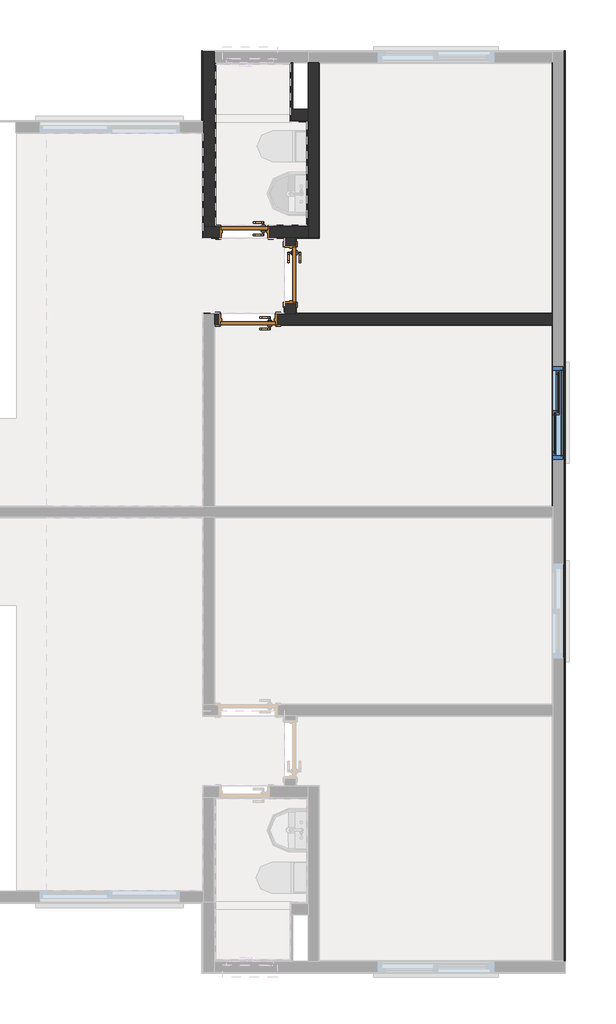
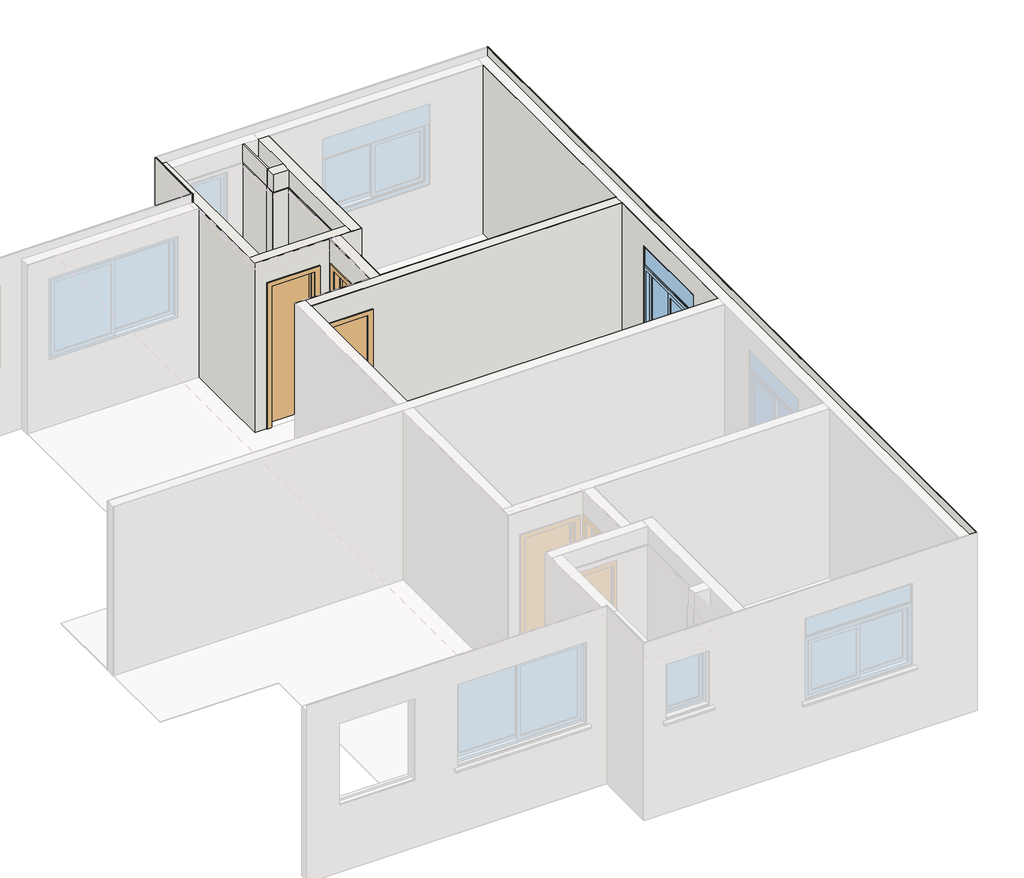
# One storey, part 9 of 11: 27 walls, 3 doors, 1 window.
"""IFC4 building model written with IfcOpenShell, lengths in millimetres."""

from ifc_helpers import new_model, si_unit, frame, origin, origin_with_axes, place, context, project, spatial, polyline, outline, extrude, faceted_brep, transform, mapped, element, save
from components import porta_de_madeira_interna_60_x_210_porta_de_madeira_interna_53f76a03, porta_de_madeira_interna_70_x_210_porta_de_madeira_interna_d0067c94, window_120x120_fed861a7

model = new_model("IFC4")

# Units and contexts
model_context = context("Model", 3, world=origin())
ifc_project = project(units=[si_unit("LENGTHUNIT", "METRE", prefix="MILLI")], contexts=[model_context])

# Site, building, storey
site = spatial("IfcSite", under=ifc_project)
building = spatial("IfcBuilding", under=site)
storey = spatial("IfcBuildingStorey", under=building, Name="Térreo", Elevation=0.0)

# Doors
placement = place(None, origin())
porta_de_madeira_interna_60_x_210_porta_de_madeira_interna_shape = porta_de_madeira_interna_60_x_210_porta_de_madeira_interna_53f76a03(model_context)
element("IfcDoor", 1, ObjectType="Porta de Madeira Interna 60 x 210 : Porta de Madeira Interna 60 x 210", at=placement, inside=storey, context=model_context, shape_type="MappedRepresentation", body=[
    mapped(porta_de_madeira_interna_60_x_210_porta_de_madeira_interna_shape, transform((16681.9956991, 10003.1988664, 0.0), x_axis=(-1.0, 0.0, 0.0), y_axis=(0.0, -1.0, 0.0), z_axis=(0.0, 0.0, 1.0))),
])
porta_de_madeira_interna_70_x_210_porta_de_madeira_interna_shape = porta_de_madeira_interna_70_x_210_porta_de_madeira_interna_d0067c94(model_context)
element("IfcDoor", 2, ObjectType="Porta de Madeira Interna 70 x 210 : Porta de Madeira Interna 70 x 210", at=placement, inside=storey, context=model_context, shape_type="MappedRepresentation", body=[
    mapped(porta_de_madeira_interna_70_x_210_porta_de_madeira_interna_shape, transform((17273.1716432, 9457.0248023, 0.0), x_axis=(0.0, -1.0, 0.0), y_axis=(1.0, 0.0, 0.0), z_axis=(0.0, 0.0, 1.0))),
])
element("IfcDoor", 3, ObjectType="Porta de Madeira Interna 70 x 210 : Porta de Madeira Interna 70 x 210", at=placement, inside=storey, context=model_context, shape_type="MappedRepresentation", body=[
    mapped(porta_de_madeira_interna_70_x_210_porta_de_madeira_interna_shape, transform((16726.9947994, 8876.8494803, 0.0), x_axis=(-1.0, 0.0, 0.0), y_axis=(0.0, -1.0, 0.0), z_axis=(0.0, 0.0, 1.0))),
])

# Walls
element("IfcWall", 4, ObjectType="Mureta box", at=placement, inside=storey, context=model_context, shape_type="SweptSolid", body=[
    extrude(outline(polyline([(16310.0007274, 11505.0235306), (17290.0007274, 11505.0235306), (17290.0007274, 11495.0235306), (16310.0007274, 11495.0235306), (16310.0007274, 11505.0235306)])), origin_with_axes(), (0.0, 0.0, 1.0), 90.0),
    extrude(outline(polyline([(17290.0007274, 11425.0235306), (16310.0007274, 11425.0235306), (16310.0007274, 11435.0235306), (17290.0007274, 11435.0235306), (17290.0007274, 11425.0235306)])), origin_with_axes(), (0.0, 0.0, 1.0), 90.0),
    extrude(outline(polyline([(17290.0007274, 11495.0235306), (17290.0007274, 11435.0235306), (16310.0007274, 11435.0235306), (16310.0007274, 11495.0235306), (17290.0007274, 11495.0235306)])), origin_with_axes(), (0.0, 0.0, 1.0), 90.0),
    extrude(outline(polyline([(16310.0007274, 11505.0235306), (17290.0007274, 11505.0235306), (17290.0007274, 11495.0235306), (16310.0007274, 11495.0235306), (16310.0007274, 11505.0235306)])), origin_with_axes(), (0.0, 0.0, 1.0), 90.0),
    extrude(outline(polyline([(17290.0007274, 11425.0235306), (16310.0007274, 11425.0235306), (16310.0007274, 11435.0235306), (17290.0007274, 11435.0235306), (17290.0007274, 11425.0235306)])), origin_with_axes(), (0.0, 0.0, 1.0), 90.0),
    extrude(outline(polyline([(17290.0007274, 11495.0235306), (17290.0007274, 11435.0235306), (16310.0007274, 11435.0235306), (16310.0007274, 11495.0235306), (17290.0007274, 11495.0235306)])), origin_with_axes(), (0.0, 0.0, 1.0), 90.0),
])
element("IfcWall", 5, ObjectType="Alvenaria Estrutural", at=placement, inside=storey, context=model_context, shape_type="Brep", body=[
    faceted_brep([(17339.9966432, 9924.0238664, 2510.0), (17339.9966432, 9930.0238664, 2510.0), (17199.9966432, 9930.0238664, 2510.0), (17199.9966432, 9924.0238664, 2510.0), (17199.9966432, 8956.0244803, 2510.0), (17199.9966432, 8950.0244803, 2510.0), (17339.9966432, 8950.0244803, 2510.0), (17339.9966432, 9082.0248023, 2125.0), (17339.9966432, 9082.0248023, 0.0), (17199.9966432, 9082.0248023, 0.0), (17199.9966432, 9082.0248023, 2125.0), (17339.9966432, 9832.0248023, 2125.0), (17199.9966432, 9832.0248023, 2125.0), (17339.9966432, 9832.0248023, 0.0), (17199.9966432, 9832.0248023, 0.0), (17339.9966432, 8950.0244803, 0.0), (17339.9966432, 9924.0238664, 0.0), (17339.9966432, 9930.0238664, 0.0), (17199.9966432, 9930.0238664, 0.0), (17199.9966432, 9924.0238664, 0.0), (17199.9966432, 8956.0244803, 0.0), (17199.9966432, 8950.0244803, 0.0)], [[[0, 1, 2, 3, 4, 5, 6]], [[7, 8, 9, 10]], [[11, 7, 10, 12]], [[13, 11, 12, 14]], [[1, 0, 6, 15, 8, 7, 11, 13, 16, 17]], [[5, 4, 3, 2, 18, 19, 14, 12, 10, 9, 20, 21]], [[8, 15, 21, 20, 9]], [[15, 6, 5, 21]], [[1, 17, 18, 2]], [[16, 13, 14, 19, 18, 17]]]),
    faceted_brep([(17339.9966432, 9930.0238664, 2510.0), (17339.9966432, 9924.0238664, 2510.0), (17339.9966432, 8950.0244803, 2510.0), (17339.9966432, 8950.0244803, 0.0), (17339.9966432, 9082.0248023, 0.0), (17339.9966432, 9082.0248023, 2125.0), (17339.9966432, 9832.0248023, 2125.0), (17339.9966432, 9832.0248023, 0.0), (17339.9966432, 9924.0238664, 0.0), (17339.9966432, 9930.0238664, 0.0), (17199.9966432, 8950.0244803, 2510.0), (17199.9966432, 8956.0244803, 2510.0), (17199.9966432, 9924.0238664, 2510.0), (17199.9966432, 9930.0238664, 2510.0), (17199.9966432, 9930.0238664, 0.0), (17199.9966432, 9924.0238664, 0.0), (17199.9966432, 9832.0248023, 0.0), (17199.9966432, 9832.0248023, 2125.0), (17199.9966432, 9082.0248023, 2125.0), (17199.9966432, 9082.0248023, 0.0), (17199.9966432, 8956.0244803, 0.0), (17199.9966432, 8950.0244803, 0.0)], [[[0, 1, 2, 3, 4, 5, 6, 7, 8, 9]], [[10, 11, 12, 13, 14, 15, 16, 17, 18, 19, 20, 21]], [[4, 3, 21, 20, 19]], [[1, 0, 13, 12, 11, 10, 2]], [[5, 4, 19, 18]], [[6, 5, 18, 17]], [[7, 6, 17, 16]], [[3, 2, 10, 21]], [[0, 9, 14, 13]], [[8, 7, 16, 15, 14, 9]]]),
])
element("IfcWall", 6, ObjectType="Alvenaria Estrutural", at=placement, inside=storey, context=model_context, shape_type="Brep", body=[
    faceted_brep([(17639.9970013, 12180.0252435, 0.0), (17639.9970013, 12180.0252435, 2510.0), (17639.9970013, 12174.0253822, 2510.0), (17639.9970013, 9930.025593, 2510.0), (17639.9970013, 9930.025593, 0.0), (17639.9970013, 12174.0253822, 0.0), (17499.9970013, 11580.0235306, 0.0), (17499.9970013, 12180.0252435, 0.0), (17499.9970013, 9930.025593, 0.0), (17499.9970013, 10070.0238664, 0.0), (17499.9970013, 10090.0238664, 0.0), (17499.9970013, 11420.0235306, 0.0), (17499.9970013, 11440.0235306, 0.0), (17499.9970013, 9930.025593, 2510.0), (17499.9970013, 10070.0238664, 2510.0), (17499.9970013, 12180.0252435, 2510.0), (17499.9970013, 11580.0235306, 2510.0), (17499.9970013, 11440.0235306, 2510.0)], [[[0, 1, 2, 3, 4, 5]], [[6, 7, 0, 5, 4, 8, 9, 10, 11, 12]], [[13, 8, 4, 3]], [[14, 13, 3, 2, 1, 15, 16, 17]], [[7, 6, 12, 11, 10, 9, 8, 13, 14, 17, 16, 15]], [[7, 15, 1, 0]]]),
    faceted_brep([(17499.9970013, 12180.0252435, 0.0), (17499.9970013, 11580.0235306, 0.0), (17499.9970013, 11440.0235306, 0.0), (17499.9970013, 11420.0235306, 0.0), (17499.9970013, 10090.0238664, 0.0), (17499.9970013, 10070.0238664, 0.0), (17499.9970013, 9930.025593, 0.0), (17499.9970013, 9930.025593, 2510.0), (17499.9970013, 10070.0238664, 2510.0), (17499.9970013, 11440.0235306, 2510.0), (17499.9970013, 11580.0235306, 2510.0), (17499.9970013, 12180.0252435, 2510.0), (17639.9970013, 12180.0252435, 0.0), (17639.9970013, 12180.0252435, 2510.0), (17639.9970013, 12174.0253822, 2510.0), (17639.9970013, 9930.025593, 2510.0), (17639.9970013, 9930.025593, 0.0), (17639.9970013, 12174.0253822, 0.0)], [[[0, 1, 2, 3, 4, 5, 6, 7, 8, 9, 10, 11]], [[12, 13, 14, 15, 16, 17]], [[1, 0, 12, 17, 16, 6, 5, 4, 3, 2]], [[7, 6, 16, 15]], [[8, 7, 15, 14, 13, 11, 10, 9]], [[0, 11, 13, 12]]]),
])
element("IfcWall", 7, ObjectType="Alvenaria Estrutural", at=placement, inside=storey, context=model_context, shape_type="Brep", body=[
    faceted_brep([(17499.9970013, 11440.0235306, 0.0), (17499.9970013, 11440.0235306, 2510.0), (17280.0007274, 11440.0235306, 2510.0), (17280.0007274, 11440.0235306, 0.0), (17303.0007274, 11580.0235306, 0.0), (17499.9970013, 11580.0235306, 0.0), (17280.0007274, 11580.0235306, 0.0), (17303.0007274, 11580.0235306, 2510.0), (17280.0007274, 11580.0235306, 2510.0), (17499.9970013, 11580.0235306, 2510.0)], [[[0, 1, 2, 3]], [[4, 5, 0, 3, 6]], [[7, 8, 2, 1, 9]], [[5, 4, 6, 8, 7, 9]], [[8, 6, 3, 2]], [[5, 9, 1, 0]]]),
    faceted_brep([(17499.9970013, 11580.0235306, 0.0), (17303.0007274, 11580.0235306, 0.0), (17280.0007274, 11580.0235306, 0.0), (17280.0007274, 11580.0235306, 2510.0), (17303.0007274, 11580.0235306, 2510.0), (17499.9970013, 11580.0235306, 2510.0), (17499.9970013, 11440.0235306, 0.0), (17499.9970013, 11440.0235306, 2510.0), (17280.0007274, 11440.0235306, 2510.0), (17280.0007274, 11440.0235306, 0.0)], [[[0, 1, 2, 3, 4, 5]], [[6, 7, 8, 9]], [[1, 0, 6, 9, 2]], [[4, 3, 8, 7, 5]], [[3, 2, 9, 8]], [[0, 5, 7, 6]]]),
])
element("IfcWall", 8, ObjectType="Alvenaria Estrutural", at=placement, inside=storey, context=model_context, shape_type="Brep", body=[
    faceted_brep([(17006.9956991, 10070.0238664, 0.0), (17499.9970013, 10070.0238664, 0.0), (17499.9970013, 9930.0238664, 0.0), (17339.9966432, 9930.0238664, 0.0), (17199.9966432, 9930.0238664, 0.0), (17193.9966432, 9930.0238664, 0.0), (17006.9956991, 9930.0238664, 0.0), (16289.9960602, 10070.0238664, 2510.0), (16149.9960602, 10070.0238664, 2510.0), (16149.9960602, 9930.0238664, 2510.0), (17193.9966432, 9930.0238664, 2510.0), (17199.9966432, 9930.0238664, 2510.0), (17339.9966432, 9930.0238664, 2510.0), (17499.9970013, 9930.0238664, 2510.0), (17499.9970013, 10070.0238664, 2510.0), (16356.9956991, 10070.0238664, 0.0), (16356.9956991, 10070.0238664, 2125.0), (16356.9956991, 9930.0238664, 2125.0), (16356.9956991, 9930.0238664, 0.0), (17006.9956991, 10070.0238664, 2125.0), (17006.9956991, 9930.0238664, 2125.0), (16289.9960602, 10070.0238664, 0.0), (16149.9960602, 9930.0238664, 0.0), (16149.9960602, 10070.0238664, 0.0), (17499.9970013, 10070.0238664, 2250.0)], [[[0, 1, 2, 3, 4, 5, 6]], [[7, 8, 9, 10, 11, 12, 13, 14]], [[15, 16, 17, 18]], [[16, 19, 20, 17]], [[19, 0, 6, 20]], [[21, 15, 18, 22, 23]], [[8, 7, 14, 24, 1, 0, 19, 16, 15, 21, 23]], [[13, 12, 11, 10, 9, 22, 18, 17, 20, 6, 5, 4, 3, 2]], [[8, 23, 22, 9]], [[24, 14, 13, 2, 1]]]),
    faceted_brep([(16149.9960602, 10070.0238664, 2510.0), (16289.9960602, 10070.0238664, 2510.0), (17499.9970013, 10070.0238664, 2510.0), (17499.9970013, 10070.0238664, 2250.0), (17499.9970013, 10070.0238664, 0.0), (17006.9956991, 10070.0238664, 0.0), (17006.9956991, 10070.0238664, 2125.0), (16356.9956991, 10070.0238664, 2125.0), (16356.9956991, 10070.0238664, 0.0), (16289.9960602, 10070.0238664, 0.0), (16149.9960602, 10070.0238664, 0.0), (17499.9970013, 9930.0238664, 2510.0), (17339.9966432, 9930.0238664, 2510.0), (17199.9966432, 9930.0238664, 2510.0), (17193.9966432, 9930.0238664, 2510.0), (16149.9960602, 9930.0238664, 2510.0), (16149.9960602, 9930.0238664, 0.0), (16356.9956991, 9930.0238664, 0.0), (16356.9956991, 9930.0238664, 2125.0), (17006.9956991, 9930.0238664, 2125.0), (17006.9956991, 9930.0238664, 0.0), (17193.9966432, 9930.0238664, 0.0), (17199.9966432, 9930.0238664, 0.0), (17339.9966432, 9930.0238664, 0.0), (17499.9970013, 9930.0238664, 0.0)], [[[0, 1, 2, 3, 4, 5, 6, 7, 8, 9, 10]], [[11, 12, 13, 14, 15, 16, 17, 18, 19, 20, 21, 22, 23, 24]], [[5, 4, 24, 23, 22, 21, 20]], [[1, 0, 15, 14, 13, 12, 11, 2]], [[8, 7, 18, 17]], [[7, 6, 19, 18]], [[6, 5, 20, 19]], [[0, 10, 16, 15]], [[3, 2, 11, 24, 4]], [[9, 8, 17, 16, 10]]]),
])
element("IfcWall", 9, ObjectType="Alvenaria Estrutural", at=placement, inside=storey, context=model_context, shape_type="Brep", body=[
    faceted_brep([(16149.9960602, 11436.0223004, 0.0), (16149.9960602, 12320.025593, 0.0), (16289.9960602, 12320.025593, 0.0), (16289.9960602, 12180.025593, 0.0), (16289.9960602, 10090.0238664, 0.0), (16289.9960602, 10070.0238664, 0.0), (16149.9960602, 10070.0238664, 0.0), (16149.9960602, 11274.0223004, 0.0), (16149.9960602, 11280.0223004, 0.0), (16149.9960602, 11420.0223004, 0.0), (16149.9960602, 11274.0223004, 2510.0), (16149.9960602, 10070.0238664, 2510.0), (16289.9960602, 10070.0238664, 2510.0), (16289.9960602, 12180.025593, 2510.0), (16289.9960602, 12320.025593, 2510.0), (16149.9960602, 12320.025593, 2510.0), (16149.9960602, 11420.0223004, 2510.0), (16149.9960602, 11280.0223004, 2510.0), (16289.9960602, 10070.0238664, 2250.0)], [[[0, 1, 2, 3, 4, 5, 6, 7, 8, 9]], [[10, 11, 12, 13, 14, 15, 16, 17]], [[1, 0, 9, 8, 7, 6, 11, 10, 17, 16, 15]], [[2, 14, 13, 12, 18, 5, 4, 3]], [[1, 15, 14, 2]], [[11, 6, 5, 18, 12]]]),
    faceted_brep([(16149.9960602, 12320.025593, 0.0), (16149.9960602, 11436.0223004, 0.0), (16149.9960602, 11420.0223004, 0.0), (16149.9960602, 11280.0223004, 0.0), (16149.9960602, 11274.0223004, 0.0), (16149.9960602, 10070.0238664, 0.0), (16149.9960602, 10070.0238664, 2510.0), (16149.9960602, 11274.0223004, 2510.0), (16149.9960602, 11280.0223004, 2510.0), (16149.9960602, 11420.0223004, 2510.0), (16149.9960602, 12320.025593, 2510.0), (16289.9960602, 12320.025593, 0.0), (16289.9960602, 12320.025593, 2510.0), (16289.9960602, 12180.025593, 2510.0), (16289.9960602, 10070.0238664, 2510.0), (16289.9960602, 10070.0238664, 2250.0), (16289.9960602, 10070.0238664, 0.0), (16289.9960602, 10090.0238664, 0.0), (16289.9960602, 12180.025593, 0.0)], [[[0, 1, 2, 3, 4, 5, 6, 7, 8, 9, 10]], [[11, 12, 13, 14, 15, 16, 17, 18]], [[1, 0, 11, 18, 17, 16, 5, 4, 3, 2]], [[7, 6, 14, 13, 12, 10, 9, 8]], [[0, 10, 12, 11]], [[6, 5, 16, 15, 14]]]),
])
element("IfcWall", 10, ObjectType="Alvenaria Estrutural", at=placement, inside=storey, context=model_context, shape_type="Brep", body=[
    faceted_brep([(20649.9955249, 8810.0244803, 2510.0), (20643.9955249, 8810.0244803, 2510.0), (16295.9950207, 8810.0244803, 2510.0), (16289.9950207, 8810.0244803, 2510.0), (16289.9950207, 8810.0244803, 0.0), (16295.9950207, 8810.0244803, 0.0), (16351.9947994, 8810.0244803, 0.0), (16351.9947994, 8810.0244803, 2125.0), (17101.9947994, 8810.0244803, 2125.0), (17101.9947994, 8810.0244803, 0.0), (20643.9955249, 8810.0244803, 0.0), (20649.9955249, 8810.0244803, 0.0), (16289.9950207, 8950.0244803, 2510.0), (17193.9966432, 8950.0244803, 2510.0), (17199.9966432, 8950.0244803, 2510.0), (17339.9966432, 8950.0244803, 2510.0), (17345.9966432, 8950.0244803, 2510.0), (20643.9955249, 8950.0244803, 2510.0), (20649.9955249, 8950.0244803, 2510.0), (20649.9955249, 8950.0244803, 0.0), (20643.9955249, 8950.0244803, 0.0), (17345.9966432, 8950.0244803, 0.0), (17339.9966432, 8950.0244803, 0.0), (17199.9966432, 8950.0244803, 0.0), (17193.9966432, 8950.0244803, 0.0), (17101.9947994, 8950.0244803, 0.0), (17101.9947994, 8950.0244803, 2125.0), (16351.9947994, 8950.0244803, 2125.0), (16351.9947994, 8950.0244803, 0.0), (16289.9950207, 8950.0244803, 0.0)], [[[0, 1, 2, 3, 4, 5, 6, 7, 8, 9, 10, 11]], [[12, 13, 14, 15, 16, 17, 18, 19, 20, 21, 22, 23, 24, 25, 26, 27, 28, 29]], [[5, 4, 29, 28, 6]], [[1, 0, 18, 17, 16, 15, 14, 13, 12, 3, 2]], [[7, 6, 28, 27]], [[8, 7, 27, 26]], [[9, 8, 26, 25]], [[4, 3, 12, 29]], [[0, 11, 19, 18]], [[10, 9, 25, 24, 23, 22, 21, 20, 19, 11]]]),
])
element("IfcWall", 11, ObjectType="Azulejo", at=placement, inside=storey, context=model_context, shape_type="SolidModel", body=[
    faceted_brep([(17006.9956991, 10080.0238664, 0.0), (17006.9956991, 10090.0238664, 0.0), (17479.9970535, 10090.0238664, 0.0), (17489.9970535, 10090.0238664, 0.0), (17489.9970535, 10080.0238664, 0.0), (17479.9970535, 10090.0238664, 2250.0), (16309.9956991, 10090.0238664, 2250.0), (16299.9956991, 10090.0238664, 2250.0), (16299.9956991, 10080.0238664, 2250.0), (17489.9970535, 10080.0238664, 2250.0), (17489.9970535, 10090.0238664, 2250.0), (16356.9956991, 10090.0238664, 0.0), (16356.9956991, 10090.0238664, 2125.0), (16356.9956991, 10080.0238664, 2125.0), (16356.9956991, 10080.0238664, 0.0), (17006.9956991, 10090.0238664, 2125.0), (17006.9956991, 10080.0238664, 2125.0), (16299.9956991, 10080.0238664, 0.0), (16299.9956991, 10090.0238664, 0.0), (16309.9956991, 10090.0238664, 0.0)], [[[0, 1, 2, 3, 4]], [[5, 6, 7, 8, 9, 10]], [[11, 12, 13, 14]], [[13, 12, 15, 16]], [[1, 0, 16, 15]], [[11, 14, 17, 18, 19]], [[14, 13, 16, 0, 4, 9, 8, 17]], [[2, 1, 15, 12, 11, 19, 18, 7, 6, 5, 10, 3]], [[4, 3, 10, 9]], [[8, 7, 18, 17]]]),
    extrude(outline(polyline([(2250.0, 17499.9970013), (2250.0, 16289.9960602), (0.0, 16289.9960602), (0.0, 16356.9956991), (2125.0, 16356.9956991), (2125.0, 17006.9956991), (0.0, 17006.9956991), (0.0, 17499.9970013), (2250.0, 17499.9970013)])), frame((0.0, 10070.0238664, 0.0), z_axis=(0.0, 1.0, 0.0), x_axis=(0.0, 0.0, 1.0)), (0.0, 0.0, 1.0), 10.0),
])
element("IfcWall", 12, ObjectType="Azulejo", at=placement, inside=storey, context=model_context, shape_type="SolidModel", body=[
    faceted_brep([(16309.9956991, 12160.025593, 0.0), (16309.9956991, 10090.0238664, 0.0), (16299.9956991, 10090.0238664, 0.0), (16299.9956991, 12170.025593, 0.0), (16309.9956991, 12170.025593, 0.0), (16299.9956991, 10090.0238664, 2250.0), (16309.9956991, 10090.0238664, 2250.0), (16309.9956991, 12160.025593, 2250.0), (16309.9956991, 12170.025593, 2250.0), (16299.9956991, 12170.025593, 2250.0)], [[[0, 1, 2, 3, 4]], [[5, 6, 7, 8, 9]], [[2, 1, 6, 5]], [[2, 5, 9, 3]], [[1, 0, 4, 8, 7, 6]], [[4, 3, 9, 8]]]),
    extrude(outline(polyline([(16289.9956991, 10080.0238664), (16289.9956991, 12180.025593), (16299.9956991, 12180.025593), (16299.9956991, 10080.0238664), (16289.9956991, 10080.0238664)])), origin_with_axes(), (0.0, 0.0, 1.0), 2250.0),
])
element("IfcWall", 13, ObjectType="Azulejo", at=placement, inside=storey, context=model_context, shape_type="SweptSolid", body=[
    extrude(outline(polyline([(17270.0007274, 11430.0235306), (17270.0007274, 11580.0235306), (17280.0007274, 11580.0235306), (17280.0007274, 11430.0235306), (17270.0007274, 11430.0235306)])), origin_with_axes(), (0.0, 0.0, 1.0), 2250.0),
    extrude(outline(polyline([(17290.0007274, 11580.0235306), (17290.0007274, 11440.0235306), (17280.0007274, 11440.0235306), (17280.0007274, 11580.0235306), (17290.0007274, 11580.0235306)])), origin_with_axes(), (0.0, 0.0, 1.0), 2250.0),
])
element("IfcWall", 14, ObjectType="Azulejo", at=placement, inside=storey, context=model_context, shape_type="Brep", body=[
    faceted_brep([(17479.9970535, 11420.0235306, 0.0), (17270.0007274, 11420.0235306, 0.0), (17270.0007274, 11430.0235306, 0.0), (17489.9970535, 11430.0235306, 0.0), (17489.9970535, 11420.0235306, 0.0), (17270.0007274, 11430.0235306, 2250.0), (17270.0007274, 11420.0235306, 2250.0), (17479.9970535, 11420.0235306, 2250.0), (17489.9970535, 11420.0235306, 2250.0), (17489.9970535, 11430.0235306, 2250.0)], [[[0, 1, 2, 3, 4]], [[5, 6, 7, 8, 9]], [[2, 1, 6, 5]], [[2, 5, 9, 3]], [[1, 0, 4, 8, 7, 6]], [[4, 3, 9, 8]]]),
    faceted_brep([(17280.0007274, 11430.0235306, 0.0), (17499.9970013, 11430.0235306, 0.0), (17499.9970013, 11430.0235306, 2250.0), (17280.0007274, 11430.0235306, 2250.0), (17499.9970013, 11440.0235306, 0.0), (17290.0007274, 11440.0235306, 0.0), (17280.0007274, 11440.0235306, 0.0), (17280.0007274, 11440.0235306, 2250.0), (17290.0007274, 11440.0235306, 2250.0), (17499.9970013, 11440.0235306, 2250.0)], [[[0, 1, 2, 3]], [[4, 5, 6, 7, 8, 9]], [[5, 4, 1, 0, 6]], [[8, 7, 3, 2, 9]], [[4, 9, 2, 1]], [[7, 6, 0, 3]]]),
])
element("IfcWall", 15, ObjectType="Azulejo", at=placement, inside=storey, context=model_context, shape_type="SweptSolid", body=[
    extrude(outline(polyline([(17479.9970535, 10090.0238664), (17479.9970535, 11420.0235306), (17489.9970535, 11420.0235306), (17489.9970535, 10090.0238664), (17479.9970535, 10090.0238664)])), origin_with_axes(), (0.0, 0.0, 1.0), 2250.0),
    extrude(outline(polyline([(17499.9970535, 11430.0235306), (17499.9970535, 10080.0238664), (17489.9970535, 10080.0238664), (17489.9970535, 11430.0235306), (17499.9970535, 11430.0235306)])), origin_with_axes(), (0.0, 0.0, 1.0), 2250.0),
])
element("IfcWall", 16, ObjectType="Azulejo - Shaft", at=placement, inside=storey, context=model_context, shape_type="SweptSolid", body=[
    extrude(outline(polyline([(17270.0007274, 11580.0235306), (17270.0007274, 12160.025593), (17280.0007274, 12160.025593), (17280.0007274, 11580.0235306), (17270.0007274, 11580.0235306)])), origin_with_axes(), (0.0, 0.0, 1.0), 2250.0),
])
element("IfcWall", 17, ObjectType="Gesso Liso + Pintura", at=placement, inside=storey, context=model_context, shape_type="SweptSolid", body=[
    extrude(outline(polyline([(6470.0103139, 0.0), (6470.0103139, 2510.0), (8810.0244803, 2510.0), (8810.0244803, 0.0), (6470.0103139, 0.0)]), holes=[polyline([(7075.01044, 1000.0), (8275.01044, 1000.0), (8275.01044, 2200.0), (7075.01044, 2200.0), (7075.01044, 1000.0)])]), frame((20643.9955249, 0.0, 0.0), z_axis=(1.0, 0.0, 0.0), x_axis=(0.0, 1.0, 0.0)), (0.0, 0.0, 1.0), 1.0),
    extrude(outline(polyline([(8810.0244803, 0.0), (6470.0103139, 0.0), (6470.0103139, 2510.0), (8810.0244803, 2510.0), (8810.0244803, 0.0)]), holes=[polyline([(7075.01044, 2200.0), (7075.01044, 1000.0), (8275.01044, 1000.0), (8275.01044, 2200.0), (7075.01044, 2200.0)])]), frame((20644.9955249, 0.0, 0.0), z_axis=(1.0, 0.0, 0.0), x_axis=(0.0, 1.0, 0.0)), (0.0, 0.0, 1.0), 5.0),
])
element("IfcWall", 18, ObjectType="Gesso Liso + Pintura", at=placement, inside=storey, context=model_context, shape_type="SweptSolid", body=[
    extrude(outline(polyline([(2510.0, 20649.9955249), (2510.0, 16289.9950207), (0.0, 16289.9950207), (0.0, 16351.9947994), (2125.0, 16351.9947994), (2125.0, 17101.9947994), (0.0, 17101.9947994), (0.0, 20649.9955249), (2510.0, 20649.9955249)])), frame((0.0, 8804.0244803, 0.0), z_axis=(0.0, 1.0, 0.0), x_axis=(0.0, 0.0, 1.0)), (0.0, 0.0, 1.0), 1.0),
    extrude(outline(polyline([(0.0, 17101.9947994), (0.0, 20649.9955249), (2510.0, 20649.9955249), (2510.0, 16289.9950207), (0.0, 16289.9950207), (0.0, 16351.9947994), (2125.0, 16351.9947994), (2125.0, 17101.9947994), (0.0, 17101.9947994)])), frame((0.0, 8805.0244803, 0.0), z_axis=(0.0, 1.0, 0.0), x_axis=(0.0, 0.0, 1.0)), (0.0, 0.0, 1.0), 5.0),
])
element("IfcWall", 19, ObjectType="Gesso Liso + Pintura", at=placement, inside=storey, context=model_context, shape_type="SolidModel", body=[
    faceted_brep([(20644.9955249, 8950.0244803, 0.0), (20643.9955249, 8950.0244803, 0.0), (20643.9955249, 12174.0253822, 0.0), (20643.9955249, 12175.0253822, 0.0), (20644.9955249, 12175.0253822, 0.0), (20643.9955249, 12174.0253822, 2510.0), (20643.9955249, 8950.0244803, 2510.0), (20644.9955249, 8950.0244803, 2510.0), (20644.9955249, 12175.0253822, 2510.0), (20643.9955249, 12175.0253822, 2510.0)], [[[0, 1, 2, 3, 4]], [[5, 6, 7, 8, 9]], [[1, 0, 7, 6]], [[7, 0, 4, 8]], [[2, 1, 6, 5, 9, 3]], [[4, 3, 9, 8]]]),
    extrude(outline(polyline([(20649.9955249, 12180.0252435), (20649.9955249, 8950.0244803), (20644.9955249, 8950.0244803), (20644.9955249, 12180.0252435), (20649.9955249, 12180.0252435)])), origin_with_axes(), (0.0, 0.0, 1.0), 2510.0),
])
element("IfcWall", 20, ObjectType="Gesso Liso + Pintura", at=placement, inside=storey, context=model_context, shape_type="SolidModel", body=[
    extrude(outline(polyline([(17645.9970535, 12174.0253822), (17645.9970535, 9924.0238664), (17644.9970535, 9924.0238664), (17644.9970535, 12174.0253822), (17645.9970535, 12174.0253822)])), origin_with_axes(), (0.0, 0.0, 1.0), 2510.0),
    faceted_brep([(17644.9970535, 9925.0238664, 0.0), (17644.9970535, 12175.0253822, 0.0), (17644.9970535, 12175.0253822, 2510.0), (17644.9970535, 9925.0238664, 2510.0), (17639.9970535, 12175.0253822, 0.0), (17639.9970535, 9930.0238664, 0.0), (17639.9970535, 9925.0238664, 0.0), (17639.9970535, 9925.0238664, 2510.0), (17639.9970535, 9930.0238664, 2510.0), (17639.9970535, 12175.0253822, 2510.0)], [[[0, 1, 2, 3]], [[4, 5, 6, 7, 8, 9]], [[5, 4, 1, 0, 6]], [[8, 7, 3, 2, 9]], [[4, 9, 2, 1]], [[7, 6, 0, 3]]]),
])
element("IfcWall", 21, ObjectType="Gesso Liso + Pintura", at=placement, inside=storey, context=model_context, shape_type="SolidModel", body=[
    faceted_brep([(17644.9970535, 9924.0238664, 0.0), (17345.9966432, 9924.0238664, 0.0), (17344.9966432, 9924.0238664, 0.0), (17344.9966432, 9925.0238664, 0.0), (17644.9970535, 9925.0238664, 0.0), (17345.9966432, 9924.0238664, 2510.0), (17644.9970535, 9924.0238664, 2510.0), (17644.9970535, 9925.0238664, 2510.0), (17344.9966432, 9925.0238664, 2510.0), (17344.9966432, 9924.0238664, 2510.0)], [[[0, 1, 2, 3, 4]], [[5, 6, 7, 8, 9]], [[7, 4, 3, 8]], [[1, 0, 6, 5, 9, 2]], [[6, 0, 4, 7]], [[3, 2, 9, 8]]]),
    extrude(outline(polyline([(17339.9966432, 9930.0238664), (17639.9970535, 9930.0238664), (17639.9970535, 9925.0238664), (17339.9966432, 9925.0238664), (17339.9966432, 9930.0238664)])), origin_with_axes(), (0.0, 0.0, 1.0), 2510.0),
])
element("IfcWall", 22, ObjectType="Gesso Liso + Pintura", at=placement, inside=storey, context=model_context, shape_type="SolidModel", body=[
    faceted_brep([(17345.9966432, 9924.0238664, 0.0), (17345.9966432, 9832.0248023, 0.0), (17344.9966432, 9832.0248023, 0.0), (17344.9966432, 9924.0238664, 0.0), (17345.9966432, 8956.0244803, 2510.0), (17345.9966432, 9924.0238664, 2510.0), (17344.9966432, 9924.0238664, 2510.0), (17344.9966432, 8955.0244803, 2510.0), (17345.9966432, 8955.0244803, 2510.0), (17345.9966432, 9082.0248023, 2125.0), (17345.9966432, 9082.0248023, 0.0), (17344.9966432, 9082.0248023, 0.0), (17344.9966432, 9082.0248023, 2125.0), (17344.9966432, 9832.0248023, 2125.0), (17345.9966432, 9832.0248023, 2125.0), (17345.9966432, 8956.0244803, 0.0), (17345.9966432, 8955.0244803, 0.0), (17344.9966432, 8955.0244803, 0.0)], [[[0, 1, 2, 3]], [[4, 5, 6, 7, 8]], [[9, 10, 11, 12]], [[9, 12, 13, 14]], [[2, 1, 14, 13]], [[0, 3, 6, 5]], [[11, 10, 15, 16, 17]], [[3, 2, 13, 12, 11, 17, 7, 6]], [[1, 0, 5, 4, 8, 16, 15, 10, 9, 14]], [[8, 7, 17, 16]]]),
    extrude(outline(polyline([(8950.0244803, 2510.0), (9925.0238664, 2510.0), (9925.0238664, 0.0), (9832.0248023, 0.0), (9832.0248023, 2125.0), (9082.0248023, 2125.0), (9082.0248023, 0.0), (8950.0244803, 0.0), (8950.0244803, 2510.0)])), frame((17339.9966432, 0.0, 0.0), z_axis=(1.0, 0.0, 0.0), x_axis=(0.0, 1.0, 0.0)), (0.0, 0.0, 1.0), 5.0),
])
element("IfcWall", 23, ObjectType="Gesso Liso + Pintura", at=placement, inside=storey, context=model_context, shape_type="SweptSolid", body=[
    extrude(outline(polyline([(17345.9966432, 8956.0244803), (20649.9955249, 8956.0244803), (20649.9955249, 8955.0244803), (17345.9966432, 8955.0244803), (17345.9966432, 8956.0244803)])), origin_with_axes(), (0.0, 0.0, 1.0), 2510.0),
    extrude(outline(polyline([(20649.9955249, 8950.0244803), (17344.9966432, 8950.0244803), (17344.9966432, 8955.0244803), (20649.9955249, 8955.0244803), (20649.9955249, 8950.0244803)])), origin_with_axes(), (0.0, 0.0, 1.0), 2510.0),
])
element("IfcWall", 24, ObjectType="Gesso Liso + Pintura", at=placement, inside=storey, context=model_context, shape_type="SolidModel", body=[
    extrude(outline(polyline([(16143.9956991, 9924.0238664), (16143.9956991, 11280.0223004), (16144.9956991, 11280.0223004), (16144.9956991, 9924.0238664), (16143.9956991, 9924.0238664)])), origin_with_axes(), (0.0, 0.0, 1.0), 2510.0),
    faceted_brep([(16144.9956991, 11280.0223004, 0.0), (16144.9956991, 9925.0238664, 0.0), (16144.9956991, 9925.0238664, 2510.0), (16144.9956991, 11280.0223004, 2510.0), (16149.9956991, 11280.0223004, 0.0), (16149.9956991, 11280.0223004, 2510.0), (16149.9956991, 9930.0238664, 2510.0), (16149.9956991, 9925.0238664, 2510.0), (16149.9956991, 9925.0238664, 0.0), (16149.9956991, 9930.0238664, 0.0)], [[[0, 1, 2, 3]], [[4, 5, 6, 7, 8, 9]], [[9, 8, 1, 0, 4]], [[6, 5, 3, 2, 7]], [[5, 4, 0, 3]], [[8, 7, 2, 1]]]),
])
element("IfcWall", 25, ObjectType="Gesso Liso + Pintura", at=placement, inside=storey, context=model_context, shape_type="SweptSolid", body=[
    extrude(outline(polyline([(2510.0, 17199.9966432), (2510.0, 16144.9956991), (0.0, 16144.9956991), (0.0, 16356.9956991), (2125.0, 16356.9956991), (2125.0, 17006.9956991), (0.0, 17006.9956991), (0.0, 17199.9966432), (2510.0, 17199.9966432)])), frame((0.0, 9924.0238664, 0.0), z_axis=(0.0, 1.0, 0.0), x_axis=(0.0, 0.0, 1.0)), (0.0, 0.0, 1.0), 1.0),
    extrude(outline(polyline([(0.0, 16149.9956991), (0.0, 16356.9956991), (2125.0, 16356.9956991), (2125.0, 17006.9956991), (0.0, 17006.9956991), (0.0, 17199.9966432), (2510.0, 17199.9966432), (2510.0, 16149.9956991), (0.0, 16149.9956991)])), frame((0.0, 9925.0238664, 0.0), z_axis=(0.0, 1.0, 0.0), x_axis=(0.0, 0.0, 1.0)), (0.0, 0.0, 1.0), 5.0),
])
element("IfcWall", 26, ObjectType="Gesso Liso + Pintura", at=placement, inside=storey, context=model_context, shape_type="SweptSolid", body=[
    extrude(outline(polyline([(8950.0244803, 2510.0), (9930.0238664, 2510.0), (9930.0238664, 0.0), (9832.0248023, 0.0), (9832.0248023, 2125.0), (9082.0248023, 2125.0), (9082.0248023, 0.0), (8950.0244803, 0.0), (8950.0244803, 2510.0)])), frame((17193.9966432, 0.0, 0.0), z_axis=(1.0, 0.0, 0.0), x_axis=(0.0, 1.0, 0.0)), (0.0, 0.0, 1.0), 1.0),
    extrude(outline(polyline([(9930.0238664, 0.0), (9832.0248023, 0.0), (9832.0248023, 2125.0), (9082.0248023, 2125.0), (9082.0248023, 0.0), (8950.0244803, 0.0), (8950.0244803, 2510.0), (9930.0238664, 2510.0), (9930.0238664, 0.0)])), frame((17194.9966432, 0.0, 0.0), z_axis=(1.0, 0.0, 0.0), x_axis=(0.0, 1.0, 0.0)), (0.0, 0.0, 1.0), 5.0),
])
element("IfcWall", 27, ObjectType="Gesso Liso + Pintura", at=placement, inside=storey, context=model_context, shape_type="SolidModel", body=[
    extrude(outline(polyline([(0.0, 17101.9947994), (0.0, 17199.9966432), (2510.0, 17199.9966432), (2510.0, 16144.9950207), (0.0, 16144.9950207), (0.0, 16351.9947994), (2125.0, 16351.9947994), (2125.0, 17101.9947994), (0.0, 17101.9947994)])), frame((0.0, 8955.0244803, 0.0), z_axis=(0.0, 1.0, 0.0), x_axis=(0.0, 0.0, 1.0)), (0.0, 0.0, 1.0), 1.0),
    faceted_brep([(17199.9966432, 8955.0244803, 0.0), (17101.9947994, 8955.0244803, 0.0), (17101.9947994, 8955.0244803, 2125.0), (16351.9947994, 8955.0244803, 2125.0), (16351.9947994, 8955.0244803, 0.0), (16149.9950207, 8955.0244803, 0.0), (16149.9950207, 8955.0244803, 2510.0), (17199.9966432, 8955.0244803, 2510.0), (17199.9966432, 8950.0244803, 2510.0), (16289.9950207, 8950.0244803, 2510.0), (16149.9950207, 8950.0244803, 2510.0), (16149.9950207, 8950.0244803, 0.0), (16289.9950207, 8950.0244803, 0.0), (16351.9947994, 8950.0244803, 0.0), (16351.9947994, 8950.0244803, 2125.0), (17101.9947994, 8950.0244803, 2125.0), (17101.9947994, 8950.0244803, 0.0), (17199.9966432, 8950.0244803, 0.0)], [[[0, 1, 2, 3, 4, 5, 6, 7]], [[8, 9, 10, 11, 12, 13, 14, 15, 16, 17]], [[17, 16, 1, 0]], [[9, 8, 7, 6, 10]], [[14, 13, 4, 3]], [[15, 14, 3, 2]], [[16, 15, 2, 1]], [[11, 10, 6, 5]], [[8, 17, 0, 7]], [[12, 11, 5, 4, 13]]]),
])
element("IfcWall", 28, ObjectType="Reboco + Pintura Externa", at=placement, inside=storey, context=model_context, shape_type="Brep", body=[
    faceted_brep([(20804.9970535, 12335.9952456, 0.0), (20804.9970535, 619.9952456, 0.0), (20804.9970535, 619.9952456, 2510.0), (20804.9970535, 479.9952456, 2510.0), (20804.9970535, 479.9952456, 2630.0), (20804.9970535, 12335.9952456, 2630.0), (20804.9970535, 12335.9952456, 2510.0), (20804.9970535, 7075.01044, 2200.0), (20804.9970535, 7075.01044, 1000.0), (20804.9970535, 8275.01044, 1000.0), (20804.9970535, 8275.01044, 2200.0), (20804.9970535, 5725.0101878, 1000.0), (20804.9970535, 5725.0101878, 2200.0), (20804.9970535, 4525.0101878, 2200.0), (20804.9970535, 4525.0101878, 1000.0), (20805.9970535, 5725.0101878, 1000.0), (20805.9970535, 5725.0101878, 2200.0), (20805.9970535, 4525.0101878, 1000.0), (20805.9970535, 4525.0101878, 2200.0), (20805.9970535, 7075.01044, 2200.0), (20805.9970535, 7075.01044, 1000.0), (20805.9970535, 8275.01044, 2200.0), (20805.9970535, 8275.01044, 1000.0), (20805.9970535, 12335.9952456, 0.0), (20805.9970535, 619.9952456, 0.0), (20805.9970535, 12335.9952456, 2630.0), (20805.9970535, 12335.9952456, 2510.0), (20805.9970535, 619.9952456, 2510.0), (20805.9970535, 479.9952456, 2630.0), (20805.9970535, 479.9952456, 2510.0)], [[[0, 1, 2, 3, 4, 5, 6], [7, 8, 9, 10], [11, 12, 13, 14]], [[12, 11, 15, 16]], [[11, 14, 17, 15]], [[14, 13, 18, 17]], [[13, 12, 16, 18]], [[8, 7, 19, 20]], [[7, 10, 21, 19]], [[10, 9, 22, 21]], [[9, 8, 20, 22]], [[1, 0, 23, 24]], [[0, 6, 5, 25, 26, 23]], [[2, 1, 24, 27]], [[24, 23, 26, 25, 28, 29, 27], [16, 15, 17, 18], [20, 19, 21, 22]], [[3, 2, 27, 29]], [[5, 4, 28, 25]], [[3, 29, 28, 4]]]),
    faceted_brep([(20794.9970535, 5725.0101878, 1000.0), (20794.9970535, 5725.0101878, 2200.0), (20789.9970535, 5725.0101878, 2200.0), (20789.9970535, 5725.0101878, 1000.0), (20794.9970535, 4525.0101878, 1000.0), (20789.9970535, 4525.0101878, 1000.0), (20794.9970535, 4525.0101878, 2200.0), (20789.9970535, 4525.0101878, 2200.0), (20794.9970535, 7075.01044, 2200.0), (20794.9970535, 7075.01044, 1000.0), (20789.9970535, 7075.01044, 1000.0), (20789.9970535, 7075.01044, 2200.0), (20794.9970535, 8275.01044, 2200.0), (20789.9970535, 8275.01044, 2200.0), (20794.9970535, 8275.01044, 1000.0), (20789.9970535, 8275.01044, 1000.0), (20794.9970535, 12324.9952456, 0.0), (20794.9970535, 619.9952456, 0.0), (20789.9970535, 619.9952456, 0.0), (20789.9970535, 12319.9952456, 0.0), (20789.9970535, 12324.9952456, 0.0), (20794.9970535, 619.9952456, 2510.0), (20789.9970535, 619.9952456, 2510.0), (20794.9970535, 12324.9952456, 2510.0), (20794.9970535, 12324.9952456, 2630.0), (20794.9970535, 479.9952456, 2630.0), (20794.9970535, 479.9952456, 2510.0), (20789.9970535, 479.9952456, 2510.0), (20789.9970535, 479.9952456, 2630.0), (20789.9970535, 12319.9952456, 2630.0), (20789.9970535, 12324.9952456, 2630.0), (20789.9970535, 12324.9952456, 2510.0)], [[[0, 1, 2, 3]], [[4, 0, 3, 5]], [[6, 4, 5, 7]], [[1, 6, 7, 2]], [[8, 9, 10, 11]], [[12, 8, 11, 13]], [[14, 12, 13, 15]], [[9, 14, 15, 10]], [[16, 17, 18, 19, 20]], [[17, 21, 22, 18]], [[17, 16, 23, 24, 25, 26, 21], [1, 0, 4, 6], [9, 8, 12, 14]], [[20, 19, 18, 22, 27, 28, 29, 30, 31], [3, 2, 7, 5], [11, 10, 15, 13]], [[20, 31, 30, 24, 23, 16]], [[21, 26, 27, 22]], [[25, 24, 30, 29, 28]], [[27, 26, 25, 28]]]),
    faceted_brep([(20804.9970535, 619.9952456, 0.0), (20804.9970535, 12334.9952456, 0.0), (20804.9970535, 12334.9952456, 2510.0), (20804.9970535, 12334.9952456, 2630.0), (20804.9970535, 479.9952456, 2630.0), (20804.9970535, 479.9952456, 2510.0), (20804.9970535, 619.9952456, 2510.0), (20804.9970535, 7075.01044, 1000.0), (20804.9970535, 7075.01044, 2200.0), (20804.9970535, 8275.01044, 2200.0), (20804.9970535, 8275.01044, 1000.0), (20804.9970535, 5725.0101878, 2200.0), (20804.9970535, 5725.0101878, 1000.0), (20804.9970535, 4525.0101878, 1000.0), (20804.9970535, 4525.0101878, 2200.0), (20794.9970535, 5725.0101878, 2200.0), (20794.9970535, 5725.0101878, 1000.0), (20794.9970535, 4525.0101878, 1000.0), (20794.9970535, 4525.0101878, 2200.0), (20794.9970535, 7075.01044, 1000.0), (20794.9970535, 7075.01044, 2200.0), (20794.9970535, 8275.01044, 2200.0), (20794.9970535, 8275.01044, 1000.0), (20794.9970535, 619.9952456, 0.0), (20794.9970535, 12334.9952456, 0.0), (20794.9970535, 619.9952456, 2510.0), (20794.9970535, 479.9952456, 2510.0), (20794.9970535, 479.9952456, 2630.0), (20794.9970535, 12334.9952456, 2630.0), (20794.9970535, 12334.9952456, 2510.0)], [[[0, 1, 2, 3, 4, 5, 6], [7, 8, 9, 10], [11, 12, 13, 14]], [[12, 11, 15, 16]], [[13, 12, 16, 17]], [[14, 13, 17, 18]], [[11, 14, 18, 15]], [[8, 7, 19, 20]], [[9, 8, 20, 21]], [[10, 9, 21, 22]], [[7, 10, 22, 19]], [[1, 0, 23, 24]], [[0, 6, 25, 23]], [[24, 23, 25, 26, 27, 28, 29], [16, 15, 18, 17], [20, 19, 22, 21]], [[1, 24, 29, 28, 3, 2]], [[6, 5, 26, 25]], [[4, 3, 28, 27]], [[26, 5, 4, 27]]]),
])
element("IfcWall", 29, ObjectType="Reboco + Pintura Externa", at=placement, inside=storey, context=model_context, shape_type="Brep", body=[
    faceted_brep([(16134.9970535, 11420.0223004, 0.0), (16134.9970535, 12334.9952456, 0.0), (16134.9970535, 12334.9952456, 2510.0), (16134.9970535, 12334.9952456, 2630.0), (16134.9970535, 11420.0223004, 2630.0), (16134.9970535, 11420.0223004, 2510.0), (16133.9970535, 11420.0223004, 0.0), (16133.9970535, 12334.9952456, 0.0), (16133.9970535, 11420.0223004, 2630.0), (16133.9970535, 11420.0223004, 2510.0), (16133.9970535, 12334.9952456, 2630.0), (16133.9970535, 12334.9952456, 2510.0)], [[[0, 1, 2, 3, 4, 5]], [[1, 0, 6, 7]], [[0, 5, 4, 8, 9, 6]], [[7, 6, 9, 8, 10, 11]], [[7, 11, 10, 3, 2, 1]], [[4, 3, 10, 8]]]),
    faceted_brep([(16144.9970535, 11420.0223004, 0.0), (16144.9970535, 12319.9952456, 0.0), (16149.9970535, 12319.9952456, 0.0), (16149.9970535, 11420.0223004, 0.0), (16144.9970535, 11420.0223004, 2510.0), (16149.9970535, 11420.0223004, 2510.0), (16149.9970535, 11420.0223004, 2630.0), (16144.9970535, 11420.0223004, 2630.0), (16144.9970535, 12319.9952456, 2510.0), (16144.9970535, 12319.9952456, 2630.0), (16149.9970535, 12319.9952456, 2630.0), (16149.9970535, 12319.9952456, 2510.0)], [[[0, 1, 2, 3]], [[4, 0, 3, 5, 6, 7]], [[1, 8, 9, 10, 11, 2]], [[1, 0, 4, 7, 9, 8]], [[3, 2, 11, 10, 6, 5]], [[9, 7, 6, 10]]]),
    faceted_brep([(16134.9970535, 12324.9952456, 0.0), (16134.9970535, 11420.0223004, 0.0), (16134.9970535, 11420.0223004, 2510.0), (16134.9970535, 11420.0223004, 2630.0), (16134.9970535, 12324.9952456, 2630.0), (16134.9970535, 12324.9952456, 2510.0), (16144.9970535, 12324.9952456, 0.0), (16144.9970535, 11420.0223004, 0.0), (16144.9970535, 11420.0223004, 2510.0), (16144.9970535, 11420.0223004, 2630.0), (16144.9970535, 12324.9952456, 2510.0), (16144.9970535, 12324.9952456, 2630.0)], [[[0, 1, 2, 3, 4, 5]], [[1, 0, 6, 7]], [[2, 1, 7, 8, 9, 3]], [[7, 6, 10, 11, 9, 8]], [[6, 0, 5, 4, 11, 10]], [[4, 3, 9, 11]]]),
])
element("IfcWall", 30, ObjectType="Shaft Drywall", at=placement, inside=storey, context=model_context, shape_type="Brep", body=[
    faceted_brep([(17303.0007274, 11580.0235306, 0.0), (17303.0007274, 12180.025593, 0.0), (17303.0007274, 12180.025593, 2510.0), (17303.0007274, 11580.0235306, 2510.0), (17280.0007274, 11580.0235306, 0.0), (17280.0007274, 12160.025593, 0.0), (17280.0007274, 12180.025593, 0.0), (17280.0007274, 12180.025593, 2510.0), (17280.0007274, 11580.0235306, 2510.0), (17280.0007274, 12180.025593, 2250.0)], [[[0, 1, 2, 3]], [[1, 0, 4, 5, 6]], [[3, 2, 7, 8]], [[4, 8, 7, 9, 6, 5]], [[0, 3, 8, 4]], [[2, 1, 6, 9, 7]]]),
    faceted_brep([(17303.0007274, 11580.0235306, 0.0), (17303.0007274, 12180.025593, 0.0), (17303.0007274, 12180.025593, 2510.0), (17303.0007274, 11580.0235306, 2510.0), (17280.0007274, 11580.0235306, 0.0), (17280.0007274, 11580.0235306, 2510.0), (17280.0007274, 12180.025593, 2510.0), (17280.0007274, 12180.025593, 2250.0), (17280.0007274, 12180.025593, 0.0), (17280.0007274, 12160.025593, 0.0)], [[[0, 1, 2, 3]], [[4, 5, 6, 7, 8, 9]], [[1, 0, 4, 9, 8]], [[3, 2, 6, 5]], [[0, 3, 5, 4]], [[2, 1, 8, 7, 6]]]),
])

# Window
window_120x120_shape = window_120x120_fed861a7(model_context)
element("IfcWindow", 31, ObjectType="Veneziana - 2 Painéis : 120x120", at=placement, inside=storey, context=model_context, shape_type="MappedRepresentation", body=[
    mapped(window_120x120_shape, transform((20719.9955249, 7675.01044, 350.0), x_axis=(0.0, 1.0, 0.0), y_axis=(-1.0, 0.0, 0.0), z_axis=(0.0, 0.0, 1.0))),
])

save(model, "model.ifc")
